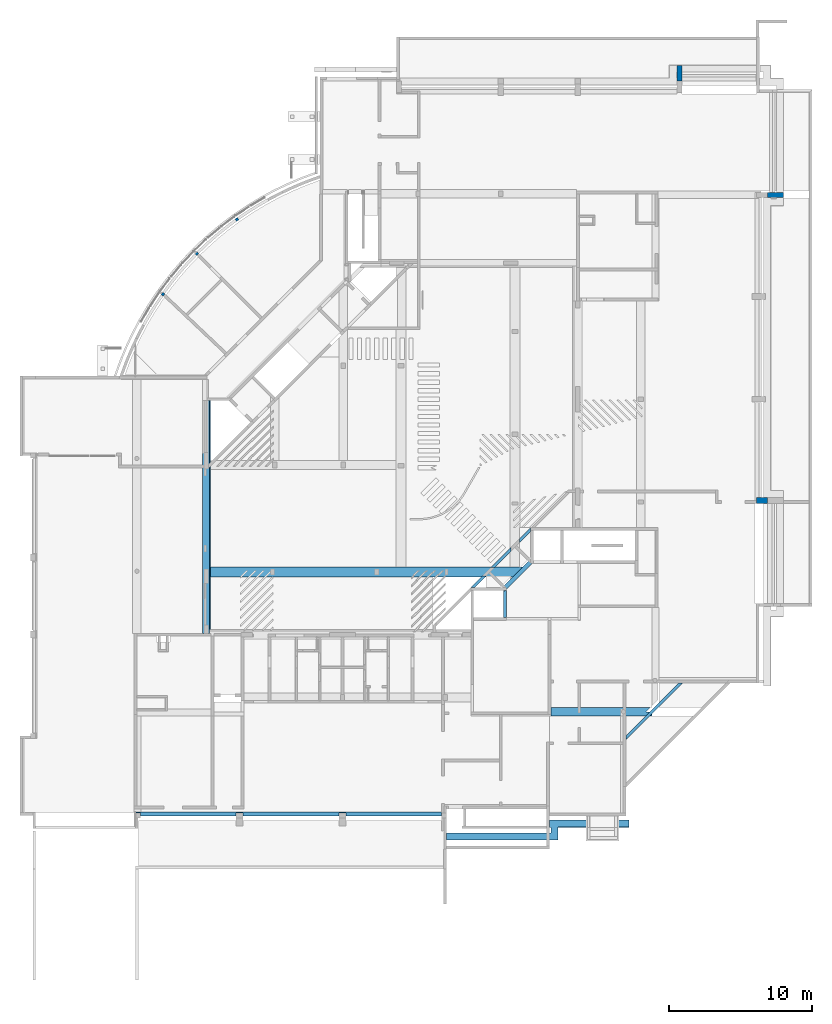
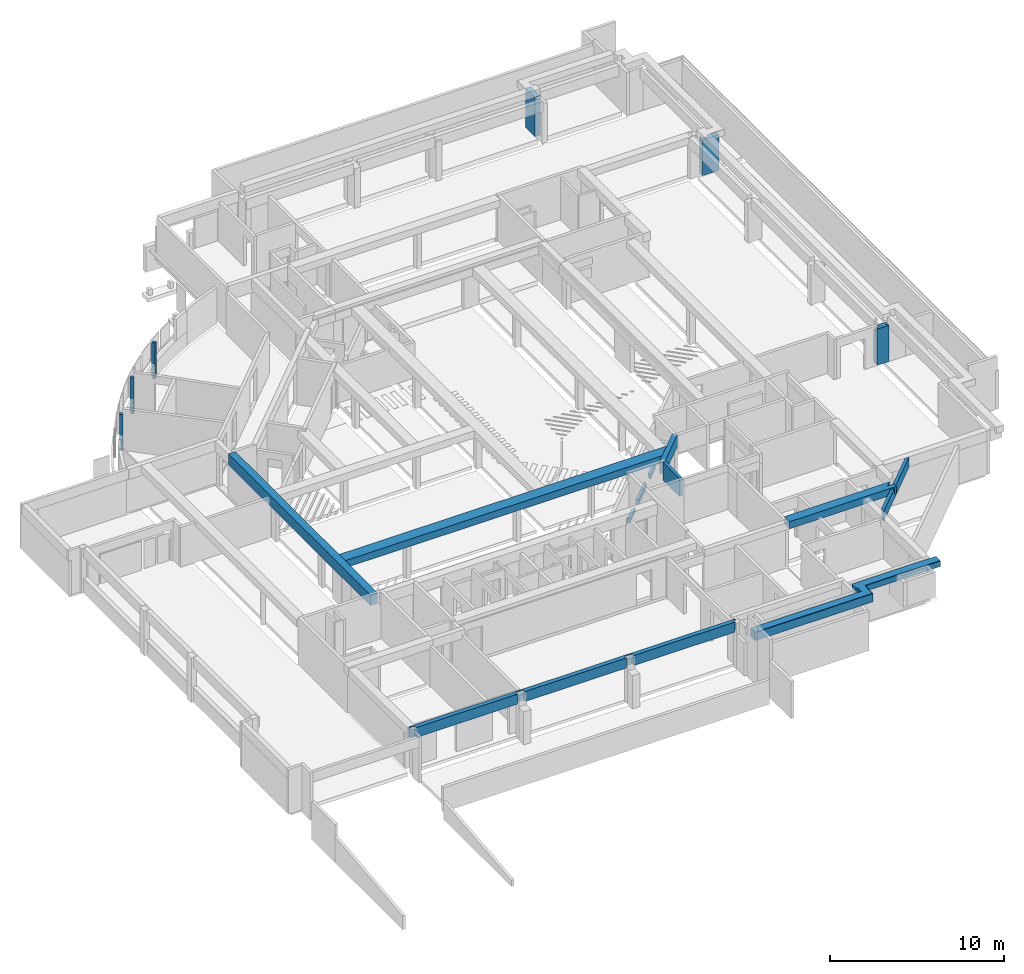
# One storey, part 12 of 22: 9 beams, 6 columns.
"""IFC4X3_ADD2 building model written with IfcOpenShell, lengths in millimetres."""

from ifc_helpers import new_model, si_unit, direction, frame, origin_with_axes, place, context, subcontext, project, spatial, polygons, source, transform, mapped, material, type_object, type_shapes, element, save


model = new_model("IFC4X3_ADD2")

# Units and contexts
model_context = context("Model", 3, precision=1e-05, world=origin_with_axes(), true_north=direction((0.0, 1.0)))
body_context = subcontext(model_context, "Body", "Model", "MODEL_VIEW")
ifc_project = project(units=[si_unit("LENGTHUNIT", "METRE", prefix="MILLI"), si_unit("AREAUNIT", "SQUARE_METRE"), si_unit("VOLUMEUNIT", "CUBIC_METRE"), si_unit("PLANEANGLEUNIT", "RADIAN"), si_unit("TIMEUNIT", "SECOND"), si_unit("MASSUNIT", "GRAM")], contexts=[model_context])

# Site, building, storey
site_placement = place(None, origin_with_axes())
site = spatial("IfcSite", under=ifc_project, at=site_placement, Name="Site", CompositionType="ELEMENT")
building_placement = place(site_placement, origin_with_axes())
building = spatial("IfcBuilding", under=site, at=building_placement, Name="IFC Building Story")
storey_placement = place(building_placement, frame((0.0, 0.0, -3240.0), z_axis=(0.0, 0.0, 1.0), x_axis=(1.0, 0.0, 0.0)))
storey = spatial("IfcBuildingStorey", under=building, at=storey_placement, Name="K10", Elevation=-3240.0)

# Columns
ifc_material_1 = material(Name="BB_Beton_Bestaand")
column_type_1 = type_object("IfcColumnType", Name="BB_XX_Kolom_ rechthoekig_ center-center_GTL_200 mm x 200 mm", PredefinedType="NOTDEFINED")
shared_shape_1 = source(origin_with_axes(), body_context, "Body", "Tessellation", [
    polygons([(141.421356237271, 8.66293703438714e-12, 2520.0), (282.842712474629, 141.421356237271, 2520.0), (141.421356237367, 282.842712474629, 2520.0), (8.66293703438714e-12, 141.421356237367, 2520.0), (19.1566346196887, 122.264721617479, 0.0), (89.7275968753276, 193.115202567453, 0.0), (160.616646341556, 263.647422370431, 0.0), (282.842712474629, 141.421356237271, 0.0), (141.421356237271, 8.66293703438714e-12, 0.0), (89.724320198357, 193.111927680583, 200.0), (19.156634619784, 122.264721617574, 200.0), (8.66293703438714e-12, 141.421356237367, 200.0), (141.421356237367, 282.84271247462, 200.0), (160.616646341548, 263.647422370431, 200.0)], [[[1, 2, 3, 4]], [[6, 7, 8]], [[8, 9, 5]], [[8, 5, 6]], [[10, 11, 12]], [[12, 13, 14]], [[12, 14, 10]], [[14, 13, 3]], [[3, 2, 8]], [[3, 8, 14]], [[8, 7, 14]], [[4, 3, 13, 12]], [[11, 5, 9]], [[11, 9, 1]], [[11, 1, 4]], [[4, 12, 11]], [[2, 1, 9, 8]], [[11, 10, 6, 5]], [[6, 10, 14, 7]]]),
])
type_shapes(column_type_1, [shared_shape_1])
column_1_placement = place(storey_placement, frame((-39446.3778459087, 39163.5351334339, -200.0), z_axis=(0.0, 0.0, 1.0), x_axis=(1.0, 0.0, 0.0)))
element("IfcColumn", 1, at=column_1_placement, inside=storey, type_object=column_type_1, material=ifc_material_1, Name="BB_XX_Kolom, rechthoekig, center-center_GTL:200 mm x 200 mm", ObjectType="BB_XX_Kolom, rechthoekig, center-center_GTL:200 mm x 200 mm", PredefinedType="COLUMN", context=body_context, shape_type="MappedRepresentation", body=[
    mapped(shared_shape_1, transform((0.0, 0.0, 0.0))),
])
column_type_2 = type_object("IfcColumnType", Name="BB_XX_Kolom_ rechthoekig_ center-center_GTL_200 mm x 200 mm1", PredefinedType="NOTDEFINED")
shared_shape_2 = source(origin_with_axes(), body_context, "Body", "Tessellation", [
    polygons([(164.051552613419, 4.33146851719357e-12, 2520.0), (166.407130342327, 3.31461986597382, 2520.0), (276.673578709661, 158.474585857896, 2520.0), (279.907787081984, 163.025559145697, 2520.0), (116.882227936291, 278.881793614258, 2520.0), (1.02599346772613, 115.856234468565, 2520.0), (1.5952722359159, 115.45166910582, 0.0), (59.3778682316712, 197.067993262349, 0.0), (117.527123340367, 278.423490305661, 0.0), (279.907787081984, 163.025559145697, 0.0), (276.673578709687, 158.474585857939, 0.0), (166.407130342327, 3.31461986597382, 0.0), (164.051552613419, 4.33146851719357e-12, 0.0), (59.3751753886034, 197.06420778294, 200.0), (1.59527223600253, 115.451669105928, 200.0), (1.02599346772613, 115.856234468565, 200.0), (116.882227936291, 278.881793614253, 200.0), (117.52712334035, 278.42349030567, 200.0)], [[[3, 4, 5]], [[5, 6, 2]], [[5, 2, 3]], [[6, 1, 2]], [[8, 9, 10]], [[8, 10, 11]], [[12, 13, 7]], [[7, 8, 11]], [[7, 11, 12]], [[14, 15, 16]], [[14, 16, 17]], [[17, 18, 14]], [[18, 17, 5]], [[18, 5, 4]], [[18, 4, 10]], [[10, 9, 18]], [[6, 5, 17, 16]], [[15, 7, 13]], [[13, 1, 6]], [[13, 6, 15]], [[6, 16, 15]], [[2, 1, 13]], [[2, 13, 12]], [[11, 10, 4]], [[11, 4, 3]], [[3, 2, 12]], [[3, 12, 11]], [[15, 14, 8, 7]], [[8, 14, 18, 9]]]),
])
type_shapes(column_type_2, [shared_shape_2])
column_2_placement = place(storey_placement, frame((-41815.0101317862, 36322.891967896, -200.0), z_axis=(0.0, 0.0, 1.0), x_axis=(1.0, 0.0, 0.0)))
element("IfcColumn", 2, at=column_2_placement, inside=storey, type_object=column_type_2, material=ifc_material_1, Name="BB_XX_Kolom, rechthoekig, center-center_GTL:200 mm x 200 mm", ObjectType="BB_XX_Kolom, rechthoekig, center-center_GTL:200 mm x 200 mm", PredefinedType="COLUMN", context=body_context, shape_type="MappedRepresentation", body=[
    mapped(shared_shape_2, transform((0.0, 0.0, 0.0))),
])
column_type_3 = type_object("IfcColumnType", Name="BB_XX_Kolom_ rechthoekig_ center-center_GTL_200 mm x 200 mm3", PredefinedType="NOTDEFINED")
shared_shape_3 = source(origin_with_axes(), body_context, "Body", "Tessellation", [
    polygons([(115.8562344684, 0.0, 2520.0), (278.881793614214, 115.856234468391, 2520.0), (163.025559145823, 278.881793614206, 2520.0), (8.66293703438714e-12, 163.025559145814, 2520.0), (105.833218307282, 186.731407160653, 0.0), (187.463334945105, 244.494502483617, 0.0), (278.881793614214, 115.856234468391, 0.0), (115.8562344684, 0.0, 0.0), (24.4638411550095, 128.601590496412, 0.0), (105.829417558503, 186.728704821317, 200.0), (24.4638411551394, 128.60159049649, 200.0), (8.66293703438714e-12, 163.025559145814, 200.0), (163.025559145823, 278.881793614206, 200.0), (187.4633349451, 244.494502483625, 200.0)], [[[1, 2, 3, 4]], [[5, 6, 7]], [[5, 7, 8]], [[8, 9, 5]], [[10, 11, 12]], [[12, 13, 14]], [[12, 14, 10]], [[14, 13, 3]], [[3, 2, 7]], [[3, 7, 14]], [[7, 6, 14]], [[4, 3, 13, 12]], [[11, 9, 8]], [[11, 8, 1]], [[11, 1, 4]], [[4, 12, 11]], [[2, 1, 8, 7]], [[11, 10, 5, 9]], [[5, 14, 6]], [[14, 5, 10]]]),
])
type_shapes(column_type_3, [shared_shape_3])
column_3_placement = place(storey_placement, frame((-36630.0580327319, 41563.3866159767, -200.0), z_axis=(0.0, 0.0, 1.0), x_axis=(1.0, 0.0, 0.0)))
element("IfcColumn", 3, at=column_3_placement, inside=storey, type_object=column_type_3, material=ifc_material_1, Name="BB_XX_Kolom, rechthoekig, center-center_GTL:200 mm x 200 mm", ObjectType="BB_XX_Kolom, rechthoekig, center-center_GTL:200 mm x 200 mm", PredefinedType="COLUMN", context=body_context, shape_type="MappedRepresentation", body=[
    mapped(shared_shape_3, transform((0.0, 0.0, 0.0))),
])
ifc_material_2 = material(Name="<Unnamed>")
column_type_4 = type_object("IfcColumnType", Name="BB_XX_Kolom_ rechthoekig_ center-center_GTL_400 mm x 800 mm", PredefinedType="NOTDEFINED")
shared_shape_4 = source(origin_with_axes(), body_context, "Body", "Tessellation", [
    polygons([(0.0, -4.33146851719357e-12, 2540.0), (800.0, -4.33146851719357e-12, 2540.0), (800.0, 150.000000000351, 2540.0), (339.999999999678, 150.000000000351, 2540.0), (339.999999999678, 339.9999996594, 2540.0), (189.999999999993, 339.999999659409, 2540.0), (189.999999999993, 320.000000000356, 2540.0), (189.999999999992, 170.000000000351, 2540.0), (0.0, 170.000000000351, 2540.0), (0.0, 399.999999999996, 0.0), (800.0, 399.999999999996, 0.0), (800.0, -4.33146851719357e-12, 0.0), (0.0, -4.33146851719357e-12, 0.0), (0.0, 170.000000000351, 2320.0), (0.0, 399.999999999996, 2320.0), (800.0, 399.999999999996, 2523.09012177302), (800.0, 170.000000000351, 2523.09012177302), (800.0, 150.000000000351, 2523.09012177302), (359.999999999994, 399.999999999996, 2320.0), (359.999999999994, 399.999999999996, 2527.79593667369), (189.999999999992, 170.000000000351, 2530.0), (339.999999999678, 170.000000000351, 2530.0), (339.999999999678, 170.000000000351, 2528.009837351), (359.999999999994, 170.000000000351, 2527.79593667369), (359.999999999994, 170.000000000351, 2320.0), (189.999999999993, 339.999999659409, 2530.0), (339.999999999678, 339.9999996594, 2530.0), (339.999999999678, 150.000000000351, 2528.009837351)], [[[8, 9, 4]], [[4, 5, 7]], [[4, 7, 8]], [[5, 6, 7]], [[4, 9, 1]], [[1, 2, 3]], [[1, 3, 4]], [[10, 11, 12, 13]], [[14, 15, 10]], [[14, 10, 13]], [[13, 1, 14]], [[1, 9, 14]], [[2, 1, 13, 12]], [[18, 3, 2]], [[18, 2, 12]], [[12, 17, 18]], [[12, 11, 16]], [[12, 16, 17]], [[19, 20, 16]], [[19, 16, 11]], [[19, 11, 10]], [[10, 15, 19]], [[23, 24, 25]], [[25, 21, 23]], [[21, 22, 23]], [[25, 14, 9]], [[25, 9, 21]], [[9, 8, 21]], [[14, 25, 19, 15]], [[19, 25, 24, 20]], [[7, 6, 26]], [[26, 21, 8]], [[26, 8, 7]], [[22, 21, 26, 27]], [[17, 16, 20]], [[17, 20, 24]], [[24, 23, 28]], [[28, 18, 17]], [[28, 17, 24]], [[18, 28, 4, 3]], [[22, 27, 5]], [[22, 5, 4]], [[4, 28, 22]], [[28, 23, 22]], [[5, 27, 26, 6]]]),
])
type_shapes(column_type_4, [shared_shape_4])
column_4_placement = place(storey_placement, frame((-95.0, 21805.0, 0.0), z_axis=(0.0, 0.0, 1.0), x_axis=(1.0, 0.0, 0.0)))
element("IfcColumn", 4, at=column_4_placement, inside=storey, type_object=column_type_4, material=ifc_material_2, Name="BB_XX_Kolom, rechthoekig, center-center_GTL:400 mm x 800 mm", ObjectType="BB_XX_Kolom, rechthoekig, center-center_GTL:400 mm x 800 mm", PredefinedType="COLUMN", context=body_context, shape_type="MappedRepresentation", body=[
    mapped(shared_shape_4, transform((0.0, 0.0, 0.0))),
])
column_type_5 = type_object("IfcColumnType", Name="BB_XX_Kolom_ rechthoekig_ center-center_GTL_340 mm x 1090 mm", PredefinedType="NOTDEFINED")
shared_shape_5 = source(origin_with_axes(), body_context, "Body", "Tessellation", [
    polygons([(1090.0, 0.0, 2511.43158109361), (1090.0, 340.000000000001, 2511.43158109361), (494.910821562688, 340.000000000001, 2511.43158109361), (494.910821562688, 190.000000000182, 2511.43158109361), (134.910821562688, 190.000000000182, 2511.43158109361), (134.910821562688, 340.000000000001, 2511.43158109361), (0.0, 340.000000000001, 2511.43158109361), (0.0, 0.0, 2511.43158109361), (1090.0, 0.0, 0.0), (0.0, 0.0, 0.0), (0.0, 340.000000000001, 0.0), (1090.0, 340.000000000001, 0.0), (134.910821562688, 340.000000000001, 2320.0), (494.910821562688, 340.000000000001, 2320.0), (494.910821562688, 190.000000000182, 2320.0), (134.910821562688, 190.000000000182, 2320.0)], [[[5, 6, 7]], [[5, 7, 8]], [[8, 4, 5]], [[4, 8, 1]], [[4, 1, 2]], [[2, 3, 4]], [[9, 10, 11, 12]], [[2, 1, 9, 12]], [[14, 3, 2]], [[14, 2, 12]], [[14, 12, 11]], [[11, 13, 14]], [[11, 7, 13]], [[7, 6, 13]], [[8, 7, 11, 10]], [[1, 8, 10, 9]], [[15, 16, 5, 4]], [[15, 4, 3, 14]], [[16, 15, 14, 13]], [[5, 16, 13, 6]]]),
])
type_shapes(column_type_5, [shared_shape_5])
column_5_placement = place(storey_placement, frame((705.089178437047, 43235.0, 0.0), z_axis=(0.0, 0.0, 1.0), x_axis=(1.0, 0.0, 0.0)))
element("IfcColumn", 5, at=column_5_placement, inside=storey, type_object=column_type_5, material=ifc_material_2, Name="BB_XX_Kolom, rechthoekig, center-center_GTL:340 mm x 1090 mm", ObjectType="BB_XX_Kolom, rechthoekig, center-center_GTL:340 mm x 1090 mm", PredefinedType="COLUMN", context=body_context, shape_type="MappedRepresentation", body=[
    mapped(shared_shape_5, transform((0.0, 0.0, 0.0))),
])
column_type_6 = type_object("IfcColumnType", Name="BB_XX_Kolom_ rechthoekig_ center-center_GTL_340 mm x 1090 mm1", PredefinedType="NOTDEFINED")
shared_shape_6 = source(origin_with_axes(), body_context, "Body", "Tessellation", [
    polygons([(340.000000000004, 1090.00000000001, 0.0), (340.000000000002, 0.0, 0.0), (1.08286712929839e-12, 0.0, 0.0), (4.33146851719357e-12, 1090.00000000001, 0.0), (4.33146851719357e-12, 1090.00000000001, 2757.84495123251), (340.000000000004, 1090.00000000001, 2757.84495123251), (2.16573425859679e-12, 8.66293703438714e-12, 2778.43912566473), (340.000000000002, 8.66293703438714e-12, 2780.0), (204.999999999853, 8.66293703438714e-12, 2780.0), (204.999999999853, 8.66293703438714e-12, 2778.43912566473), (340.000000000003, 290.000000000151, 2772.95994164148), (340.000000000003, 290.000000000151, 2780.0), (204.999999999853, 290.000000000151, 2772.95994164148), (204.999999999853, 290.000000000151, 2780.0)], [[[1, 2, 3, 4]], [[1, 4, 5, 6]], [[4, 3, 7, 5]], [[10, 7, 3]], [[10, 3, 2]], [[2, 8, 10]], [[8, 9, 10]], [[11, 12, 8]], [[11, 8, 2]], [[2, 1, 6]], [[2, 6, 11]], [[13, 11, 6]], [[6, 5, 7]], [[6, 7, 13]], [[7, 10, 13]], [[11, 13, 14, 12]], [[13, 10, 9, 14]], [[9, 8, 12, 14]]]),
])
type_shapes(column_type_6, [shared_shape_6])
column_6_placement = place(storey_placement, frame((-5645.0, 51405.0, 0.0), z_axis=(0.0, 0.0, 1.0), x_axis=(1.0, 0.0, 0.0)))
element("IfcColumn", 6, at=column_6_placement, inside=storey, type_object=column_type_6, material=ifc_material_2, Name="BB_XX_Kolom, rechthoekig, center-center_GTL:340 mm x 1090 mm", ObjectType="BB_XX_Kolom, rechthoekig, center-center_GTL:340 mm x 1090 mm", PredefinedType="COLUMN", context=body_context, shape_type="MappedRepresentation", body=[
    mapped(shared_shape_6, transform((0.0, 0.0, 0.0))),
])

# Beams
beam_type_1 = type_object("IfcBeamType", Name="BB_XX_Betonbalk_ rechthoekig_ center-center_SFB_600 x 500 mm37", PredefinedType="NOTDEFINED")
shared_shape_7 = source(origin_with_axes(), body_context, "Body", "Tessellation", [
    polygons([(7099.99999999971, 0.0, 0.0), (7099.99999999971, 0.0, -500.0), (7099.99999999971, 300.000000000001, -500.0), (7099.99999999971, 300.0, 0.0), (0.0, 2.27402097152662e-11, 0.0), (2.16573425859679e-12, 300.000000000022, 0.0), (2.16573425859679e-12, 600.000000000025, 0.0), (2.16573425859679e-12, 600.000000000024, -500.0), (2.16573425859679e-12, 300.000000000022, -500.0), (0.0, 2.27402097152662e-11, -500.0), (1897.53029801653, 1.73258740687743e-11, -500.0), (2087.53029801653, 1.62430069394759e-11, -500.0), (4874.99999999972, 7.58006990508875e-12, -500.0), (5274.99999999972, 6.49720277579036e-12, -500.0), (1897.53029801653, 600.000000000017, -500.0), (2087.53029801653, 600.000000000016, -500.0), (6966.90908859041, 599.999999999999, -500.0), (6666.90908859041, 300.000000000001, -500.0), (6966.90908859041, 599.999999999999, 0.0), (6666.90908859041, 300.000000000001, 0.0)], [[[1, 2, 3, 4]], [[6, 7, 8]], [[6, 8, 9]], [[9, 10, 5]], [[9, 5, 6]], [[14, 2, 1]], [[1, 13, 14]], [[1, 5, 12]], [[1, 12, 13]], [[5, 11, 12]], [[5, 10, 11]], [[16, 17, 18]], [[16, 18, 9]], [[9, 15, 16]], [[9, 8, 15]], [[18, 3, 2]], [[11, 10, 9]], [[9, 12, 11]], [[9, 18, 13]], [[9, 13, 12]], [[18, 14, 13]], [[18, 2, 14]], [[15, 8, 7]], [[7, 16, 15]], [[7, 19, 17]], [[7, 17, 16]], [[20, 6, 5]], [[20, 5, 1]], [[1, 4, 20]], [[20, 19, 7]], [[20, 7, 6]], [[20, 18, 17, 19]], [[18, 20, 4, 3]]]),
])
type_shapes(beam_type_1, [shared_shape_7])
beam_1_placement = place(storey_placement, frame((-14500.0, 6900.0, 3140.0), z_axis=(0.0, 0.0, 1.0), x_axis=(1.0, 0.0, 0.0)))
element("IfcBeam", 7, at=beam_1_placement, inside=storey, type_object=beam_type_1, material=ifc_material_1, Name="BB_XX_Betonbalk, rechthoekig, center-center_SFB:600 x 500 mm", ObjectType="BB_XX_Betonbalk, rechthoekig, center-center_SFB:600 x 500 mm", PredefinedType="BEAM", context=body_context, shape_type="MappedRepresentation", body=[
    mapped(shared_shape_7, transform((0.0, 0.0, 0.0))),
])
beam_type_2 = type_object("IfcBeamType", Name="BB_XX_Betonbalk_ rechthoekig_ center-center_SFB_290 x 700 mm", PredefinedType="NOTDEFINED")
shared_shape_8 = source(origin_with_axes(), body_context, "Body", "Tessellation", [
    polygons([(21620.0000000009, 289.999999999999, 0.0), (21620.0000000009, 289.999999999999, 700.0), (21620.0000000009, 189.999999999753, 700.0), (21620.0000000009, 189.999999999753, 0.0), (0.0, 290.000000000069, 700.0), (0.0, 290.000000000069, 0.0), (0.0, 190.000000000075, 0.0), (0.0, 190.000000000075, 700.0), (14740.0000000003, 2.17588613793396e-11, 700.0), (14740.0000000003, 2.17757811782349e-11, 0.0), (21450.0000000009, 0.0, 0.0), (21450.0000000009, 0.0, 700.000000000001), (21450.0000000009, 189.999999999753, 0.0), (14740.0000000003, 189.999999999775, 0.0), (14250.0000000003, 189.999999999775, 0.0), (14250.0000000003, 2.33662422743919e-11, 0.0), (7540.00000000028, 4.50743442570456e-11, 0.0), (7540.00000000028, 189.99999999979, 0.0), (7050.00000000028, 189.99999999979, 0.0), (7050.00000000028, 4.66648053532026e-11, 0.0), (339.999999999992, 6.83729073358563e-11, 0.0), (339.999999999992, 190.000000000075, 0.0), (339.999999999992, 190.000000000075, 700.0), (339.999999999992, 6.83729073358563e-11, 700.0), (7050.00000000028, 4.66648053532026e-11, 700.0), (7050.00000000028, 189.99999999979, 700.0), (7540.00000000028, 189.99999999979, 700.0), (7540.00000000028, 4.50743442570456e-11, 700.0), (14250.0000000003, 2.33662422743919e-11, 700.0), (14250.0000000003, 189.999999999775, 700.0), (14740.0000000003, 189.999999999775, 700.0), (21450.0000000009, 189.999999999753, 700.0)], [[[1, 2, 3, 4]], [[5, 6, 7, 8]], [[9, 10, 11, 12]], [[22, 7, 6]], [[22, 6, 19]], [[19, 20, 21]], [[19, 21, 22]], [[6, 18, 19]], [[6, 15, 18]], [[15, 16, 17]], [[15, 17, 18]], [[6, 14, 15]], [[6, 13, 14]], [[13, 11, 10]], [[13, 10, 14]], [[6, 1, 13]], [[1, 4, 13]], [[2, 1, 6, 5]], [[32, 3, 2]], [[32, 2, 31]], [[31, 9, 12]], [[31, 12, 32]], [[2, 30, 31]], [[2, 27, 30]], [[27, 28, 29]], [[27, 29, 30]], [[2, 26, 27]], [[2, 23, 26]], [[23, 24, 25]], [[23, 25, 26]], [[2, 5, 23]], [[5, 8, 23]], [[14, 31, 30, 15]], [[15, 30, 29, 16]], [[31, 14, 10, 9]], [[16, 29, 28, 17]], [[18, 27, 26, 19]], [[19, 26, 25, 20]], [[27, 18, 17, 28]], [[20, 25, 24, 21]], [[22, 23, 8, 7]], [[23, 22, 21, 24]], [[32, 13, 4, 3]], [[13, 32, 12, 11]]]),
])
type_shapes(beam_type_2, [shared_shape_8])
beam_2_placement = place(storey_placement, frame((-43595.0, -95.0, 2340.0), z_axis=(0.0, 0.0, 1.0), x_axis=(1.0, 0.0, 0.0)))
element("IfcBeam", 8, at=beam_2_placement, inside=storey, type_object=beam_type_2, material=ifc_material_1, Name="BB_XX_Betonbalk, rechthoekig, center-center_SFB:290 x 700 mm", ObjectType="BB_XX_Betonbalk, rechthoekig, center-center_SFB:290 x 700 mm", PredefinedType="BEAM", context=body_context, shape_type="MappedRepresentation", body=[
    mapped(shared_shape_8, transform((0.0, 0.0, 0.0))),
])
beam_type_3 = type_object("IfcBeamType", Name="BB_XX_Betonbalk_ rechthoekig_ center-center_SFB_200 x 700 mm1", PredefinedType="NOTDEFINED")
shared_shape_9 = source(origin_with_axes(), body_context, "Body", "Tessellation", [
    polygons([(10.0000000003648, 1.08286712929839e-12, 0.0), (10.0000000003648, 1.08286712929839e-12, 700.0), (0.0, 10.0000000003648, 700.0), (0.0, 10.0000000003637, 0.0), (3989.75180106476, 3979.75180106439, 0.0), (3989.75180106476, 3979.75180106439, 700.0), (2225.0, 2214.99999999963, 700.0), (1974.75180106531, 1964.75180106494, 700.0), (0.0, 272.842712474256, 0.0), (3706.90908859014, 3979.75180106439, 0.0), (0.0, 272.842712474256, 700.0), (1691.90908859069, 1964.75180106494, 700.0), (2225.0, 2497.84271247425, 700.0), (3706.90908859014, 3979.75180106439, 700.0)], [[[1, 2, 3, 4]], [[8, 2, 1]], [[1, 5, 7]], [[1, 7, 8]], [[5, 6, 7]], [[5, 1, 4]], [[5, 4, 9]], [[5, 9, 10]], [[13, 14, 10]], [[10, 9, 12]], [[10, 12, 13]], [[9, 11, 12]], [[7, 6, 14]], [[7, 14, 13]], [[13, 12, 8]], [[13, 8, 7]], [[12, 11, 3]], [[12, 3, 2]], [[12, 2, 8]], [[4, 3, 11, 9]], [[6, 5, 10, 14]]]),
])
type_shapes(beam_type_3, [shared_shape_9])
beam_3_placement = place(storey_placement, frame((-9225.0, 5235.24819893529, 2340.0), z_axis=(0.0, 0.0, 1.0), x_axis=(1.0, 0.0, 0.0)))
element("IfcBeam", 9, at=beam_3_placement, inside=storey, type_object=beam_type_3, material=ifc_material_1, Name="BB_XX_Betonbalk, rechthoekig, center-center_SFB:200 x 700 mm", ObjectType="BB_XX_Betonbalk, rechthoekig, center-center_SFB:200 x 700 mm", PredefinedType="BEAM", context=body_context, shape_type="MappedRepresentation", body=[
    mapped(shared_shape_9, transform((0.0, 0.0, 0.0))),
])
beam_type_4 = type_object("IfcBeamType", Name="BB_XX_Betonbalk_ L-vorm_ center-center_SFB_570 x 750 mm - 100 x 200 mm", PredefinedType="NOTDEFINED")
shared_shape_10 = source(origin_with_axes(), body_context, "Body", "Tessellation", [
    polygons([(470.000000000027, 16299.9959341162, 750.000000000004), (470.000000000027, 16299.9959341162, 550.000000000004), (570.000000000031, 16299.9959341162, 550.000000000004), (570.000000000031, 16299.9959341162, 3.51931817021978e-12), (3.0320279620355e-11, 16299.9959341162, 3.51931817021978e-12), (3.0320279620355e-11, 16299.9959341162, 750.000000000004), (570.000000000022, 11730.2989721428, 3.24860138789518e-12), (570.000000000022, 11482.8115987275, 3.24860138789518e-12), (570.0, 269.995934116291, 2.57180943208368e-12), (470.000000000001, 269.995934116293, 1.75965908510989e-12), (470.000000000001, 0.0, 2.57180943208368e-12), (4.33146851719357e-12, 0.0, 2.57180943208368e-12), (2.16573425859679e-11, 11010.4627436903, 3.24860138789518e-12), (2.16573425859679e-11, 11599.9959341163, 3.24860138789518e-12), (3.0320279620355e-11, 16189.1441175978, 3.51931817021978e-12), (3.0320279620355e-11, 16279.1441175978, 3.51931817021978e-12), (470.000000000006, 0.0, 750.000000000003), (4.33146851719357e-12, 0.0, 750.000000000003), (570.0, 269.995934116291, 550.000000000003), (470.000000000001, 169.995934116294, 750.000000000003), (470.000000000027, 14649.6449278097, 750.000000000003), (470.000000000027, 14776.9241484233, 750.000000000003), (470.000000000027, 14812.2794874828, 750.000000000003), (470.000000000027, 14882.9901656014, 750.000000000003), (470.000000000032, 15165.832878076, 750.000000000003), (470.000000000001, 269.995934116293, 550.000000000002), (470.000000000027, 14649.6449278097, 550.000000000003), (470.000000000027, 14776.9241484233, 550.000000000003), (470.000000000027, 14812.2794874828, 550.000000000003), (470.000000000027, 14882.9901656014, 550.000000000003), (470.000000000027, 15165.832878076, 550.000000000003)], [[[2, 3, 4]], [[2, 4, 5]], [[2, 5, 6]], [[6, 1, 2]], [[10, 11, 12]], [[13, 14, 8]], [[10, 12, 13]], [[10, 13, 8]], [[8, 9, 10]], [[14, 7, 8]], [[16, 5, 4]], [[4, 15, 16]], [[4, 7, 14]], [[4, 14, 15]], [[11, 17, 18, 12]], [[7, 4, 3]], [[3, 8, 7]], [[3, 19, 9]], [[3, 9, 8]], [[13, 12, 18]], [[13, 18, 6]], [[6, 14, 13]], [[6, 15, 14]], [[6, 16, 15]], [[6, 5, 16]], [[25, 1, 6]], [[6, 24, 25]], [[6, 23, 24]], [[6, 22, 23]], [[6, 21, 22]], [[6, 18, 20]], [[6, 20, 21]], [[18, 17, 20]], [[20, 17, 11]], [[20, 11, 10]], [[26, 27, 21]], [[26, 21, 20]], [[20, 10, 26]], [[27, 28, 22]], [[27, 22, 21]], [[28, 29, 23]], [[28, 23, 22]], [[29, 30, 24]], [[29, 24, 23]], [[30, 31, 25]], [[30, 25, 24]], [[31, 2, 1]], [[31, 1, 25]], [[27, 26, 19]], [[19, 28, 27]], [[19, 29, 28]], [[19, 30, 29]], [[19, 31, 30]], [[19, 3, 31]], [[3, 2, 31]], [[26, 10, 9, 19]]]),
])
type_shapes(beam_type_4, [shared_shape_10])
beam_4_placement = place(storey_placement, frame((-38900.0, 12700.0040658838, 2290.0), z_axis=(0.0, 0.0, 1.0), x_axis=(1.0, 0.0, 0.0)))
element("IfcBeam", 10, at=beam_4_placement, inside=storey, type_object=beam_type_4, material=ifc_material_1, Name="BB_XX_Betonbalk, L-vorm, center-center_SFB:570 x 750 mm - 100 x 200 mm", ObjectType="BB_XX_Betonbalk, L-vorm, center-center_SFB:570 x 750 mm - 100 x 200 mm", PredefinedType="BEAM", context=body_context, shape_type="MappedRepresentation", body=[
    mapped(shared_shape_10, transform((0.0, 0.0, 0.0))),
])
beam_type_5 = type_object("IfcBeamType", Name="BB_XX_Betonbalk_ rechthoekig_ center-center_SFB_200 x 1270 mm1", PredefinedType="NOTDEFINED")
shared_shape_11 = source(origin_with_axes(), body_context, "Body", "Tessellation", [
    polygons([(2.16573425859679e-12, 0.0, 1270.0), (2.16573425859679e-12, 0.0, 0.0), (200.0, 0.0, 0.0), (200.0, 0.0, 1270.0), (200.000000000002, 1900.00000000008, 1270.0), (200.000000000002, 1900.00000000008, 0.0), (2.16573425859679e-12, 1900.00000000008, 0.0), (2.16573425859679e-12, 1900.00000000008, 1270.0), (1.07442365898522, 1900.00000000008, 1270.0), (1.07442365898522, 1900.00000000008, 440.000000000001), (141.421356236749, 1900.00000000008, 440.000000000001), (141.421356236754, 1900.00000000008, 1270.0), (71.2478899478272, 1829.8265337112, 1270.0), (71.2478899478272, 1829.8265337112, 440.000000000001)], [[[1, 2, 3, 4]], [[11, 12, 5]], [[11, 5, 6]], [[6, 7, 10]], [[6, 10, 11]], [[10, 7, 8]], [[8, 9, 10]], [[2, 1, 8, 7]], [[3, 2, 7, 6]], [[4, 3, 6, 5]], [[13, 9, 8]], [[13, 8, 1]], [[1, 4, 5]], [[1, 5, 12]], [[1, 12, 13]], [[13, 14, 10, 9]], [[14, 13, 12, 11]], [[10, 14, 11]]]),
])
type_shapes(beam_type_5, [shared_shape_11])
beam_5_placement = place(storey_placement, frame((-17800.0, 13815.0, 1870.0), z_axis=(0.0, 0.0, 1.0), x_axis=(1.0, 0.0, 0.0)))
element("IfcBeam", 11, at=beam_5_placement, inside=storey, type_object=beam_type_5, material=ifc_material_1, Name="BB_XX_Betonbalk, rechthoekig, center-center_SFB:200 x 1270 mm", ObjectType="BB_XX_Betonbalk, rechthoekig, center-center_SFB:200 x 1270 mm", PredefinedType="BEAM", context=body_context, shape_type="MappedRepresentation", body=[
    mapped(shared_shape_11, transform((0.0, 0.0, 0.0))),
])
beam_type_6 = type_object("IfcBeamType", Name="BB_XX_Betonbalk_ rechthoekig_ center-center_SFB_300 x 830 mm", PredefinedType="NOTDEFINED")
shared_shape_12 = source(origin_with_axes(), body_context, "Body", "Tessellation", [
    polygons([(2084.46278817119, 2296.594822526, 0.0), (2084.46278817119, 2296.594822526, 830.000000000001), (2225.88414440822, 2155.17346628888, 830.000000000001), (2225.88414440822, 2155.17346628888, 0.0), (212.132034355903, -2.16573425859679e-12, 830.0), (141.958568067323, 70.1734662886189, 830.0), (0.0, 212.132034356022, 830.0), (0.0, 212.132034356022, 0.0), (141.958568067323, 70.1734662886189, 0.0), (212.132034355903, -2.16573425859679e-12, 0.0), (282.305500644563, 70.1734662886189, 0.0), (340.884144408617, 128.752110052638, 0.0), (2167.30550064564, 1955.17346628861, 0.0), (2225.88414440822, 2013.75211005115, 0.0), (2225.88414440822, 2013.75211005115, 830.000000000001), (2167.30550064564, 1955.17346628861, 830.000000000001), (340.884144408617, 128.752110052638, 830.0), (282.305500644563, 70.1734662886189, 830.0), (58.0414319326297, 270.173466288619, 0.0), (2025.88414440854, 2238.01617876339, 0.0), (58.0414319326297, 270.173466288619, 830.0), (94.6421748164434, 306.774209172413, 830.0), (193.637124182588, 405.769158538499, 830.0), (1890.28845216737, 2102.4204865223, 830.000000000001), (1989.28340153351, 2201.41543588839, 830.000000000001), (1997.56075529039, 2209.69278964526, 830.000000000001), (2011.72244984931, 2223.85448420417, 830.000000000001), (2025.88414440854, 2238.01617876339, 830.000000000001)], [[[1, 2, 3, 4]], [[6, 7, 8]], [[6, 8, 9]], [[9, 10, 5]], [[9, 5, 6]], [[13, 14, 15]], [[13, 15, 16]], [[16, 17, 12]], [[16, 12, 13]], [[17, 18, 11]], [[17, 11, 12]], [[18, 5, 10]], [[18, 10, 11]], [[20, 1, 4]], [[4, 14, 9]], [[4, 9, 19]], [[4, 19, 20]], [[9, 8, 19]], [[11, 10, 9]], [[9, 12, 11]], [[9, 13, 12]], [[9, 14, 13]], [[19, 8, 7]], [[19, 7, 21]], [[27, 28, 20]], [[20, 26, 27]], [[20, 25, 26]], [[20, 24, 25]], [[20, 19, 23]], [[20, 23, 24]], [[19, 22, 23]], [[19, 21, 22]], [[28, 2, 1]], [[28, 1, 20]], [[16, 15, 6]], [[6, 17, 16]], [[6, 18, 17]], [[6, 5, 18]], [[21, 7, 6]], [[6, 22, 21]], [[6, 23, 22]], [[6, 15, 24]], [[6, 24, 23]], [[15, 25, 24]], [[15, 26, 25]], [[15, 27, 26]], [[15, 3, 28]], [[15, 28, 27]], [[3, 2, 28]], [[4, 3, 15, 14]]]),
])
type_shapes(beam_type_6, [shared_shape_12])
beam_6_placement = place(storey_placement, frame((-17940.8841444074, 15644.826533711, 2310.0), z_axis=(0.0, 0.0, 1.0), x_axis=(1.0, 0.0, 0.0)))
element("IfcBeam", 12, at=beam_6_placement, inside=storey, type_object=beam_type_6, material=ifc_material_1, Name="BB_XX_Betonbalk, rechthoekig, center-center_SFB:300 x 830 mm", ObjectType="BB_XX_Betonbalk, rechthoekig, center-center_SFB:300 x 830 mm", PredefinedType="BEAM", context=body_context, shape_type="MappedRepresentation", body=[
    mapped(shared_shape_12, transform((0.0, 0.0, 0.0))),
])
beam_type_7 = type_object("IfcBeamType", Name="BB_XX_Betonbalk_ rechthoekig_ center-center_SFB_720 x 500 mm", PredefinedType="NOTDEFINED")
shared_shape_13 = source(origin_with_axes(), body_context, "Body", "Tessellation", [
    polygons([(-4.33146851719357e-12, 7.36349647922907e-11, 500.0), (-4.33146851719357e-12, 720.000000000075, 500.0), (-4.33146851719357e-12, 720.000000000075, 0.0), (-4.33146851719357e-12, 7.36349647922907e-11, 0.0), (18710.7625048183, 8.66293703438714e-12, 0.0), (18958.2498782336, 6.49720277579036e-12, 0.0), (18965.3516625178, 6.49720277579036e-12, 0.0), (19234.0522393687, 6.49720277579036e-12, 0.0), (19724.6480951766, 4.33146851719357e-12, 0.0), (19993.3486720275, 4.33146851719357e-12, 0.0), (20970.0000000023, 0.0, 0.0), (21172.1572875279, 0.0, 0.0), (21172.1572875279, 0.0, 500.0), (20970.0000000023, 0.0, 500.0), (19430.7625048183, 720.000000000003, 0.0), (19678.2498782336, 720.000000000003, 0.0), (19685.3516625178, 720.000000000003, 0.0), (19954.0522393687, 720.000000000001, 0.0), (20970.0000000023, 719.999999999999, 0.0), (21690.0000000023, 719.999999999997, 0.0), (21892.1572875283, 719.999999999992, 0.0), (20970.0000000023, 720.000000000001, 500.0), (21690.0000000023, 719.999999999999, 500.0), (21892.1572875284, 719.999999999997, 500.0)], [[[1, 2, 3, 4]], [[11, 12, 13]], [[11, 13, 14]], [[14, 10, 11]], [[14, 9, 10]], [[14, 8, 9]], [[14, 7, 8]], [[14, 6, 7]], [[14, 5, 6]], [[14, 1, 4]], [[14, 4, 5]], [[20, 21, 12]], [[12, 11, 19]], [[12, 19, 20]], [[11, 10, 18]], [[11, 18, 19]], [[10, 9, 17]], [[10, 17, 18]], [[9, 16, 17]], [[9, 8, 15]], [[9, 15, 16]], [[5, 4, 3]], [[5, 3, 15]], [[15, 6, 5]], [[15, 7, 6]], [[15, 8, 7]], [[23, 24, 21]], [[23, 21, 20]], [[20, 19, 22]], [[20, 22, 23]], [[15, 3, 2]], [[15, 2, 22]], [[22, 16, 15]], [[22, 17, 16]], [[22, 18, 17]], [[22, 19, 18]], [[23, 22, 14]], [[23, 14, 13]], [[13, 24, 23]], [[22, 2, 1]], [[22, 1, 14]], [[13, 12, 21, 24]]]),
])
type_shapes(beam_type_7, [shared_shape_13])
beam_7_placement = place(storey_placement, frame((-38330.0, 16640.0, 2340.0), z_axis=(0.0, 0.0, 1.0), x_axis=(1.0, 0.0, 0.0)))
element("IfcBeam", 13, at=beam_7_placement, inside=storey, type_object=beam_type_7, material=ifc_material_1, Name="BB_XX_Betonbalk, rechthoekig, center-center_SFB:720 x 500 mm", ObjectType="BB_XX_Betonbalk, rechthoekig, center-center_SFB:720 x 500 mm", PredefinedType="BEAM", context=body_context, shape_type="MappedRepresentation", body=[
    mapped(shared_shape_13, transform((0.0, 0.0, 0.0))),
])
beam_type_8 = type_object("IfcBeamType", Name="BB_XX_Betonbalk_ rechthoekig_ center-center_SFB_190 x 300 mm", PredefinedType="NOTDEFINED")
shared_shape_14 = source(origin_with_axes(), body_context, "Body", "Tessellation", [
    polygons([(3389.64833748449, 3120.94776063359, 300.0), (3389.64833748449, 3120.94776063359, 0.0), (4174.6483374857, 3905.94776063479, 0.0), (4174.6483374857, 3905.94776063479, 300.0), (4174.6483374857, 4174.64833748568, 0.0), (3389.64833748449, 3389.64833748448, 0.0), (3389.64833748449, 3389.64833748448, 300.0), (4174.6483374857, 4174.64833748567, 300.0)], [[[1, 2, 3, 4]], [[5, 3, 2, 6]], [[6, 7, 8, 5]], [[7, 1, 4, 8]], [[2, 1, 7, 6]], [[4, 3, 5, 8]]]),
    polygons([(1053.7005768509, 785.000000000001, 300.0), (1053.7005768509, 785.000000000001, 0.0), (785.000000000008, 785.000000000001, 0.0), (785.000000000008, 785.000000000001, 300.0), (4.33146851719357e-12, 2.16573425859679e-12, 300.0), (268.700576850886, 2.16573425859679e-12, 300.0), (268.700576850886, 2.16573425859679e-12, 0.0), (0.0, 2.16573425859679e-12, 0.0)], [[[1, 2, 3, 4]], [[1, 4, 5, 6]], [[2, 1, 6, 7]], [[3, 2, 7, 8]], [[4, 3, 8, 5]], [[5, 8, 7, 6]]]),
    polygons([(1653.70057685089, 1385.0, 0.0), (1653.70057685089, 1385.0, 300.0), (1385.00000000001, 1385.0, 300.0), (1385.00000000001, 1385.0, 0.0), (2789.64833748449, 2520.94776063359, 300.0), (2789.64833748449, 2520.94776063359, 0.0), (2789.6483374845, 2789.64833748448, 0.0), (2789.6483374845, 2789.64833748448, 300.0)], [[[1, 2, 3, 4]], [[5, 6, 7, 8]], [[3, 2, 5, 8]], [[2, 1, 6, 5]], [[1, 4, 7, 6]], [[4, 3, 8, 7]]]),
])
type_shapes(beam_type_8, [shared_shape_14])
beam_8_placement = place(storey_placement, frame((-20089.6483374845, 15915.0, -500.0), z_axis=(0.0, 0.0, 1.0), x_axis=(1.0, 0.0, 0.0)))
element("IfcBeam", 14, at=beam_8_placement, inside=storey, type_object=beam_type_8, material=ifc_material_1, Name="BB_XX_Betonbalk, rechthoekig, center-center_SFB:190 x 300 mm", ObjectType="BB_XX_Betonbalk, rechthoekig, center-center_SFB:190 x 300 mm", PredefinedType="BEAM", context=body_context, shape_type="MappedRepresentation", body=[
    mapped(shared_shape_14, transform((0.0, 0.0, 0.0))),
])
ifc_material_3 = material(Name="BB_Beton_Structureel_In zicht")
beam_type_9 = type_object("IfcBeamType", Name="randbalk2_randbalk01", PredefinedType="NOTDEFINED")
shared_shape_15 = source(origin_with_axes(), body_context, "Body", "Tessellation", [
    polygons([(7819.48962099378, 509.999999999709, 180.000000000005), (7819.48962099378, 509.999999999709, 569.99999999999), (7799.48962099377, 509.999999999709, 590.000000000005), (7319.48962099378, 509.999999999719, 600.000000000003), (7319.48962099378, 509.999999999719, 180.000000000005), (7819.48962099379, 900.510317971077, 569.99999999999), (7819.48962099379, 900.510317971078, 180.000000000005), (12784.1186317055, 900.510317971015, 180.000000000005), (12784.1186317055, 900.510317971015, 569.99999999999), (7319.48962099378, 1400.51031797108, 600.000000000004), (12784.1186317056, 1400.51031797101, 600.000000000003), (12784.1186317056, 1400.51031797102, 180.000000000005), (7209.4896209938, 1400.51031797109, 180.000000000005), (7209.4896209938, 1400.51031797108, 600.000000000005), (12784.1186317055, 920.510317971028, 590.000000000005), (7799.48962099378, 920.510317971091, 590.000000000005), (7319.48962099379, 900.502230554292, 600.000000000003), (7319.48962099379, 900.502230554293, 180.000000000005), (7209.48962099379, 900.502230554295, 180.000000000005), (7209.48962099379, 900.502230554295, 600.000000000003)], [[[1, 2, 3]], [[1, 3, 4]], [[1, 4, 5]], [[6, 7, 8, 9]], [[10, 11, 12]], [[10, 12, 13]], [[13, 14, 10]], [[9, 8, 12]], [[9, 12, 11]], [[9, 11, 15]], [[10, 16, 15, 11]], [[2, 1, 7, 6]], [[17, 4, 3]], [[17, 3, 16]], [[16, 10, 17]], [[5, 4, 17, 18]], [[18, 19, 13]], [[7, 1, 5]], [[7, 5, 18]], [[7, 18, 13]], [[13, 12, 8]], [[13, 8, 7]], [[3, 2, 6, 16]], [[6, 9, 15, 16]], [[14, 13, 19, 20]], [[20, 19, 18, 17]], [[14, 20, 17, 10]]]),
    polygons([(7320.00000000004, 505.00000000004, 1.42126310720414e-12), (7320.00000000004, 505.00000000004, 600.000000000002), (7799.59183673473, 505.00000000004, 590.408163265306), (7820.00000000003, 505.00000000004, 570.0), (7820.00000000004, 505.00000000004, 0.0), (4.33146851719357e-12, 500.000000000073, 8.25686186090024e-12), (0.0, 7.30935312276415e-11, 1.47540646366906e-11), (0.0, 7.28228144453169e-11, 570.000000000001), (0.0, 20.4081632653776, 590.408163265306), (4.33146851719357e-12, 500.000000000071, 600.000000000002), (7320.00000000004, 500.000000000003, 600.000000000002), (7320.00000000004, 500.000000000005, 1.42126310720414e-12), (7799.59183673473, 20.4081632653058, 590.408163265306), (7820.00000000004, 0.0, 570.0), (7820.00000000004, 0.0, 0.0)], [[[1, 2, 3]], [[1, 3, 4]], [[1, 4, 5]], [[6, 7, 8]], [[6, 8, 9]], [[6, 9, 10]], [[11, 12, 6, 10]], [[13, 11, 10, 9]], [[14, 13, 9, 8]], [[15, 14, 8, 7]], [[2, 1, 12, 11]], [[3, 2, 11, 13]], [[4, 3, 13, 14]], [[5, 4, 14, 15]], [[12, 1, 5]], [[12, 5, 15]], [[15, 7, 6]], [[15, 6, 12]]]),
])
type_shapes(beam_type_9, [shared_shape_15])
beam_9_placement = place(storey_placement, frame((-21799.9999389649, -1800.0, 2638.76247084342), z_axis=(0.0, 0.0, 1.0), x_axis=(1.0, 0.0, 0.0)))
element("IfcBeam", 15, at=beam_9_placement, inside=storey, type_object=beam_type_9, material=ifc_material_3, Name="randbalk2:randbalk01", ObjectType="randbalk2:randbalk01", PredefinedType="BEAM", context=body_context, shape_type="MappedRepresentation", body=[
    mapped(shared_shape_15, transform((0.0, 0.0, 0.0))),
])

save(model, "model.ifc")
